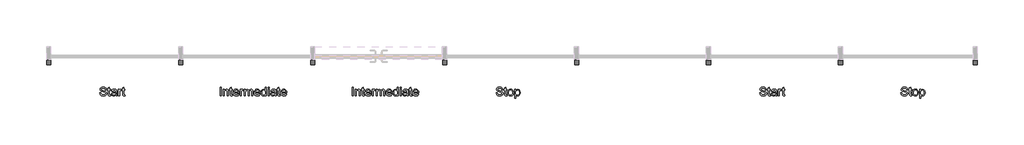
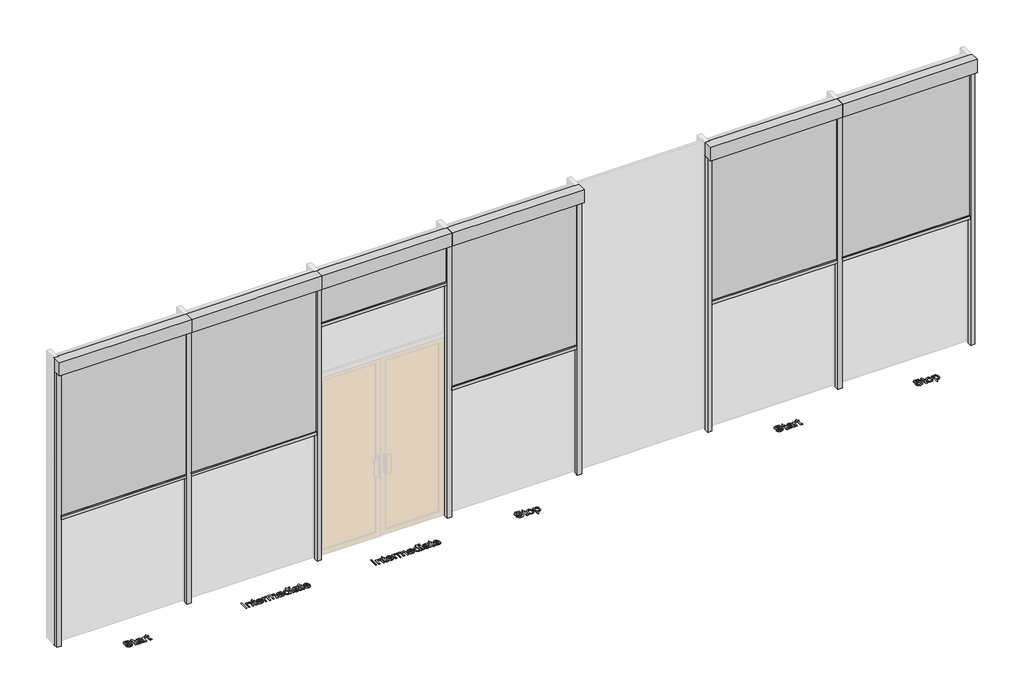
# One storey, part 4 of 4: 12 proxies.
"""IFC4 building model written with IfcOpenShell, lengths in millimetres."""

from ifc_helpers import new_model, si_unit, origin, origin_with_axes, place, context, project, spatial, polyline, outline, extrude, transform, mapped, element, save
from components import generic_models_1d95561a, generic_models_7d98fb68, generic_models_83925ee7, generic_models_0b1c9ff1, generic_models_05ed3316

model = new_model("IFC4")

# Units and contexts
model_context = context("Model", 3, world=origin())
ifc_project = project(units=[si_unit("LENGTHUNIT", "METRE", prefix="MILLI")], contexts=[model_context])

# Site, building, storey
site = spatial("IfcSite", under=ifc_project)
building = spatial("IfcBuilding", under=site)
storey = spatial("IfcBuildingStorey", under=building, Name="Fixscreen Mini CW50 Reynaers Overview Top", Elevation=0.0)

# Proxies
placement = place(None, origin())
generic_models_shape = generic_models_1d95561a(model_context)
element("IfcBuildingElementProxy", 1, Name="Renson_Fixscreen_Minimal_CW50_Reynaers_End : For Reynaers curtain wall - End element - Access downwards - Fabric close to the window", ObjectType="Renson_Fixscreen_Minimal_CW50_Reynaers_End : For Reynaers curtain wall - End element - Access downwards - Fabric close to the window", at=placement, inside=storey, context=model_context, shape_type="MappedRepresentation", body=[
    mapped(generic_models_shape, transform((-3913.1725901, 1109.7858744, 0.0), x_axis=(1.0, 0.0, 0.0), y_axis=(0.0, 1.0, 0.0), z_axis=(0.0, 0.0, 1.0))),
])
generic_models_2_shape = generic_models_7d98fb68(model_context)
element("IfcBuildingElementProxy", 2, Name="Renson_Fixscreen_Minimal_CW50_Reynaers_End : For Reynaers curtain wall - End element - Access downwards - Fabric close to the window", ObjectType="Renson_Fixscreen_Minimal_CW50_Reynaers_End : For Reynaers curtain wall - End element - Access downwards - Fabric close to the window", at=placement, inside=storey, context=model_context, shape_type="MappedRepresentation", body=[
    mapped(generic_models_2_shape, transform((616.3436748, 1107.5546799, 0.0), x_axis=(1.0, 0.0, 0.0), y_axis=(0.0, 1.0, 0.0), z_axis=(0.0, 0.0, 1.0))),
])
generic_models_3_shape = generic_models_83925ee7(model_context)
element("IfcBuildingElementProxy", 3, Name="Renson_Fixscreen_Minimal_CW50_Reynaers_Middle : For Reynaers curtain wall - Middle element - Access downwards - Fabric close to the window", ObjectType="Renson_Fixscreen_Minimal_CW50_Reynaers_Middle : For Reynaers curtain wall - Middle element - Access downwards - Fabric close to the window", at=placement, inside=storey, context=model_context, shape_type="MappedRepresentation", body=[
    mapped(generic_models_3_shape, transform((-6913.6796834, 1109.7391157, 0.0), x_axis=(1.0, 0.0, 0.0), y_axis=(0.0, 1.0, 0.0), z_axis=(0.0, 0.0, 1.0))),
])
generic_models_4_shape = generic_models_0b1c9ff1(model_context)
element("IfcBuildingElementProxy", 4, Name="Renson_Fixscreen_Minimal_CW50_Reynaers_Middle : For Reynaers curtain wall - Middle element - Access downwards - Fabric close to the window", ObjectType="Renson_Fixscreen_Minimal_CW50_Reynaers_Middle : For Reynaers curtain wall - Middle element - Access downwards - Fabric close to the window", at=placement, inside=storey, context=model_context, shape_type="MappedRepresentation", body=[
    mapped(generic_models_4_shape, transform((-5413.1725901, 1109.7391157, 0.0), x_axis=(1.0, 0.0, 0.0), y_axis=(0.0, 1.0, 0.0), z_axis=(0.0, 0.0, 1.0))),
])
generic_models_5_shape = generic_models_05ed3316(model_context)
element("IfcBuildingElementProxy", 5, Name="Renson_Fixscreen_Minimal_CW50_Reynaers_Start : For Reynaers curtain wall - Start element - Access downwards - Fabric close to the window", ObjectType="Renson_Fixscreen_Minimal_CW50_Reynaers_Start : For Reynaers curtain wall - Start element - Access downwards - Fabric close to the window", at=placement, inside=storey, context=model_context, shape_type="MappedRepresentation", body=[
    mapped(generic_models_5_shape, transform((-8413.6796834, 1109.7391157, 0.0), x_axis=(1.0, 0.0, 0.0), y_axis=(0.0, 1.0, 0.0), z_axis=(0.0, 0.0, 1.0))),
])
element("IfcBuildingElementProxy", 6, Name="Renson_Fixscreen_Minimal_CW50_Reynaers_Start : For Reynaers curtain wall - Start element - Access downwards - Fabric close to the window", ObjectType="Renson_Fixscreen_Minimal_CW50_Reynaers_Start : For Reynaers curtain wall - Start element - Access downwards - Fabric close to the window", at=placement, inside=storey, context=model_context, shape_type="MappedRepresentation", body=[
    mapped(generic_models_5_shape, transform((-913.6479386, 1107.6014385, 0.0), x_axis=(1.0, 0.0, 0.0), y_axis=(0.0, 1.0, 0.0), z_axis=(0.0, 0.0, 1.0))),
])
element("IfcBuildingElementProxy", 7, Name="100mm Arial", ObjectType="100mm Arial", at=placement, inside=storey, context=model_context, shape_type="SweptSolid", body=[
    extrude(outline(polyline([(-8828.8311252, 38.4810457), (-8816.2740864, 38.4810457), (-8812.2273845, 25.9117442), (-8802.3436216, 17.9654931), (-8787.2849852, 14.936598), (-8774.1638607, 17.2297291), (-8765.6903121, 23.532774), (-8762.9066717, 31.9572716), (-8764.9913363, 39.7931581), (-8773.5261986, 45.4953291), (-8791.8099338, 50.2900577), (-8811.4916205, 56.482738), (-8822.1724611, 65.8269407), (-8825.6918655, 78.310403), (-8821.3385952, 92.5229108), (-8808.6221409, 102.5538265), (-8790.007312, 105.9751291), (-8770.1416842, 102.394411), (-8756.8979324, 91.8729859), (-8751.9192628, 76.152162), (-8764.4763015, 76.152162), (-8766.7816954, 83.644692), (-8771.5886868, 89.0525573), (-8789.5168027, 93.4180903), (-8807.4939695, 89.1016082), (-8813.1348267, 78.678285), (-8809.1371757, 69.9717445), (-8788.6338859, 62.9574611), (-8766.4138134, 56.6544163), (-8754.2614448, 46.4763477), (-8750.3496329, 32.2761027), (-8754.850056, 17.2542546), (-8767.7995022, 6.2913711), (-8786.7944759, 2.3795592), (-8809.2230149, 6.5979394), (-8823.4109971, 19.302131), (-8828.8311252, 38.4810457)])), origin_with_axes(), (0.0, 0.0, 1.0), 5.0),
    extrude(outline(polyline([(-8706.3999972, 14.4215632), (-8704.8303674, 3.5813071), (-8714.223621, 2.3795592), (-8724.745046, 4.4642239), (-8729.9934958, 9.9334029), (-8731.5140748, 24.1826988), (-8731.5140748, 65.1647531), (-8740.9318538, 65.1647531), (-8740.9318538, 77.7217918), (-8731.5140748, 77.7217918), (-8731.5140748, 95.6499077), (-8718.957036, 103.0320731), (-8718.957036, 77.7217918), (-8706.3999972, 77.7217918), (-8706.3999972, 65.1647531), (-8718.957036, 65.1647531), (-8718.957036, 24.5505808), (-8718.2948484, 18.0758577), (-8716.1488701, 15.7827266), (-8711.8691762, 14.936598), (-8706.3999972, 14.4215632)])), origin_with_axes(), (0.0, 0.0, 1.0), 5.0),
    extrude(outline(polyline([(-8646.7540631, 13.3669682), (-8658.9309571, 4.8566313), (-8672.3831754, 2.3795592), (-8682.8770093, 3.8694813), (-8690.6178596, 8.3392476), (-8695.3911285, 15.1266704), (-8696.9822181, 23.5695622), (-8694.5787224, 33.502376), (-8688.2634149, 40.7128631), (-8679.4710352, 44.8331415), (-8668.6062536, 46.7216024), (-8646.8276395, 51.0380845), (-8646.7540631, 53.8339876), (-8650.2121538, 63.1046139), (-8664.0935678, 66.7343829), (-8676.7977593, 64.3186245), (-8682.8555495, 55.746974), (-8695.4125883, 57.3166039), (-8689.9801975, 69.579337), (-8679.0418395, 76.7652987), (-8662.474887, 79.2914217), (-8647.2568351, 77.0596043), (-8638.6606592, 71.4555352), (-8634.810161, 62.9329356), (-8634.1970243, 51.9455267), (-8634.1970243, 36.3228047), (-8633.5593622, 14.5074023), (-8631.0577646, 3.9491891), (-8643.6148034, 3.9491891), (-8646.7540631, 13.3669682)]), holes=[polyline([(-8646.7540631, 38.4810457), (-8667.0120983, 34.6305475), (-8677.8155662, 32.5949338), (-8682.7083967, 29.2839958), (-8684.4251794, 24.4524789), (-8680.6850458, 17.6589248), (-8669.7098996, 14.936598), (-8657.005708, 17.9409676), (-8648.8142022, 25.2127684), (-8646.8276395, 34.9248531), (-8646.7540631, 38.4810457)])]), origin_with_axes(), (0.0, 0.0, 1.0), 5.0),
    extrude(outline(polyline([(-8616.931096, 3.9491891), (-8616.931096, 77.7217918), (-8605.9436871, 77.7217918), (-8605.9436871, 66.8079593), (-8598.1445888, 76.8634005), (-8590.2964395, 79.2914217), (-8577.6903498, 75.416398), (-8581.8842046, 64.159209), (-8590.7133725, 66.7343829), (-8597.813495, 64.2573108), (-8602.3384435, 57.3901802), (-8604.3740572, 42.7239514), (-8604.3740572, 3.9491891), (-8616.931096, 3.9491891)])), origin_with_axes(), (0.0, 0.0, 1.0), 5.0),
    extrude(outline(polyline([(-8543.1584932, 14.4215632), (-8541.5888634, 3.5813071), (-8550.982117, 2.3795592), (-8561.503542, 4.4642239), (-8566.7519918, 9.9334029), (-8568.2725708, 24.1826988), (-8568.2725708, 65.1647531), (-8577.6903498, 65.1647531), (-8577.6903498, 77.7217918), (-8568.2725708, 77.7217918), (-8568.2725708, 95.6499077), (-8555.715532, 103.0320731), (-8555.715532, 77.7217918), (-8543.1584932, 77.7217918), (-8543.1584932, 65.1647531), (-8555.715532, 65.1647531), (-8555.715532, 24.5505808), (-8555.0533444, 18.0758577), (-8552.9073661, 15.7827266), (-8548.6276722, 14.936598), (-8543.1584932, 14.4215632)])), origin_with_axes(), (0.0, 0.0, 1.0), 5.0),
])
element("IfcBuildingElementProxy", 8, Name="100mm Arial", ObjectType="100mm Arial", at=placement, inside=storey, context=model_context, shape_type="SweptSolid", body=[
    extrude(outline(polyline([(-5961.9211574, 3.9491891), (-5961.9211574, 104.4054992), (-5949.3641186, 104.4054992), (-5949.3641186, 3.9491891), (-5961.9211574, 3.9491891)])), origin_with_axes(), (0.0, 0.0, 1.0), 5.0),
    extrude(outline(polyline([(-5925.8196709, 3.9491891), (-5925.8196709, 77.7217918), (-5913.2626321, 77.7217918), (-5913.2626321, 67.421096), (-5903.6609121, 76.3238403), (-5890.5520503, 79.2914217), (-5878.6939873, 76.9001887), (-5870.6005834, 70.6216693), (-5866.8359243, 61.3878313), (-5866.1737367, 49.2477254), (-5866.1737367, 3.9491891), (-5878.7307755, 3.9491891), (-5878.7307755, 47.5554682), (-5880.177778, 58.6655045), (-5885.2913378, 64.5393537), (-5893.9120392, 66.7343829), (-5907.5359357, 61.8047642), (-5911.830958, 54.6617221), (-5913.2626321, 43.0918334), (-5913.2626321, 3.9491891), (-5925.8196709, 3.9491891)])), origin_with_axes(), (0.0, 0.0, 1.0), 5.0),
    extrude(outline(polyline([(-5822.2241011, 14.4215632), (-5820.6544712, 3.5813071), (-5830.0477248, 2.3795592), (-5840.5691499, 4.4642239), (-5845.8175997, 9.9334029), (-5847.3381786, 24.1826988), (-5847.3381786, 65.1647531), (-5856.7559577, 65.1647531), (-5856.7559577, 77.7217918), (-5847.3381786, 77.7217918), (-5847.3381786, 95.6499077), (-5834.7811398, 103.0320731), (-5834.7811398, 77.7217918), (-5822.2241011, 77.7217918), (-5822.2241011, 65.1647531), (-5834.7811398, 65.1647531), (-5834.7811398, 24.5505808), (-5834.1189522, 18.0758577), (-5831.9729739, 15.7827266), (-5827.69328, 14.936598), (-5822.2241011, 14.4215632)])), origin_with_axes(), (0.0, 0.0, 1.0), 5.0),
    extrude(outline(polyline([(-5758.0164302, 25.9240069), (-5745.7046461, 24.3543771), (-5750.1406898, 15.0776194), (-5757.2193525, 8.1430438), (-5766.7812187, 3.8204304), (-5778.6668728, 2.3795592), (-5793.4005467, 4.8658284), (-5804.7374435, 12.3246358), (-5811.9663248, 24.2716036), (-5814.3759518, 40.2223538), (-5811.9417993, 56.7095986), (-5804.6393417, 69.0397768), (-5793.455729, 76.7285105), (-5779.3781113, 79.2914217), (-5765.7388864, 76.7346418), (-5754.8403823, 69.0643022), (-5747.6942745, 56.7586495), (-5745.3122386, 40.2959302), (-5745.385815, 36.9114159), (-5801.8189131, 36.9114159), (-5799.6453436, 27.5120309), (-5794.5961632, 20.6019807), (-5787.309034, 16.3529437), (-5778.4216182, 14.936598), (-5766.1098341, 17.5608229), (-5758.0164302, 25.9240069)]), holes=[polyline([(-5801.8189131, 49.4684546), (-5757.8692774, 49.4684546), (-5762.896998, 60.848271), (-5770.2178497, 65.2628549), (-5779.4271623, 66.7343829), (-5794.8904688, 62.0377561), (-5799.7557082, 56.5471173), (-5801.8189131, 49.4684546)])]), origin_with_axes(), (0.0, 0.0, 1.0), 5.0),
    extrude(outline(polyline([(-5732.7551998, 3.9491891), (-5732.7551998, 77.7217918), (-5721.7677909, 77.7217918), (-5721.7677909, 66.8079593), (-5713.9686926, 76.8634005), (-5706.1205434, 79.2914217), (-5693.5144537, 75.416398), (-5697.7083084, 64.159209), (-5706.5374763, 66.7343829), (-5713.6375988, 64.2573108), (-5718.1625474, 57.3901802), (-5720.1981611, 42.7239514), (-5720.1981611, 3.9491891), (-5732.7551998, 3.9491891)])), origin_with_axes(), (0.0, 0.0, 1.0), 5.0),
    extrude(outline(polyline([(-5685.6663044, 3.9491891), (-5685.6663044, 77.7217918), (-5673.1092657, 77.7217918), (-5673.1092657, 65.581686), (-5664.4763015, 75.5267626), (-5652.1890429, 79.2914217), (-5639.6074786, 75.4531862), (-5632.6912971, 64.6987692), (-5622.8933733, 75.6432586), (-5610.5202756, 79.2914217), (-5601.0810367, 77.7739085), (-5594.1004758, 73.2213688), (-5589.7870594, 65.5111753), (-5588.349254, 54.5207007), (-5588.349254, 3.9491891), (-5600.9062928, 3.9491891), (-5600.9062928, 49.1250981), (-5602.0712524, 59.609735), (-5606.2896326, 64.7723456), (-5613.4633315, 66.7343829), (-5625.8119038, 61.7066623), (-5629.4999208, 55.1644942), (-5630.7292598, 45.5934309), (-5630.7292598, 3.9491891), (-5643.2862986, 3.9491891), (-5643.2862986, 50.5230497), (-5646.1925664, 62.687681), (-5655.72071, 66.7343829), (-5665.0158618, 64.0365816), (-5671.1962793, 56.1393815), (-5673.1092657, 41.1543215), (-5673.1092657, 3.9491891), (-5685.6663044, 3.9491891)])), origin_with_axes(), (0.0, 0.0, 1.0), 5.0),
    extrude(outline(polyline([(-5517.8630637, 25.9240069), (-5505.5512796, 24.3543771), (-5509.9873233, 15.0776194), (-5517.0659861, 8.1430438), (-5526.6278522, 3.8204304), (-5538.5135064, 2.3795592), (-5553.2471803, 4.8658284), (-5564.5840771, 12.3246358), (-5571.8129583, 24.2716036), (-5574.2225854, 40.2223538), (-5571.7884328, 56.7095986), (-5564.4859752, 69.0397768), (-5553.3023626, 76.7285105), (-5539.2247449, 79.2914217), (-5525.5855199, 76.7346418), (-5514.6870158, 69.0643022), (-5507.5409081, 56.7586495), (-5505.1588721, 40.2959302), (-5505.2324485, 36.9114159), (-5561.6655466, 36.9114159), (-5559.4919771, 27.5120309), (-5554.4427968, 20.6019807), (-5547.1556676, 16.3529437), (-5538.2682517, 14.936598), (-5525.9564676, 17.5608229), (-5517.8630637, 25.9240069)]), holes=[polyline([(-5561.6655466, 49.4684546), (-5517.7159109, 49.4684546), (-5522.7436315, 60.848271), (-5530.0644832, 65.2628549), (-5539.2737958, 66.7343829), (-5554.7371024, 62.0377561), (-5559.6023417, 56.5471173), (-5561.6655466, 49.4684546)])]), origin_with_axes(), (0.0, 0.0, 1.0), 5.0),
    extrude(outline(polyline([(-5447.0825678, 3.9491891), (-5447.0825678, 15.7949893), (-5455.3905696, 5.7334168), (-5466.8746192, 2.3795592), (-5482.4237648, 7.2356016), (-5493.4111738, 20.7859217), (-5497.3107229, 40.7619141), (-5493.7177421, 60.7501691), (-5482.9510624, 74.5089558), (-5466.9236701, 79.2914217), (-5455.34765, 75.8701191), (-5447.0825678, 66.9796376), (-5447.0825678, 104.4054992), (-5434.5255291, 104.4054992), (-5434.5255291, 3.9491891), (-5447.0825678, 3.9491891)]), holes=[polyline([(-5484.7536841, 40.810965), (-5483.3373385, 29.4526084), (-5479.0883014, 21.3745329), (-5472.9140153, 16.5460817), (-5465.7219223, 14.936598), (-5458.5328949, 16.4725053), (-5452.5149586, 21.0802273), (-5448.4406655, 28.8456031), (-5447.0825678, 39.8544718), (-5448.465191, 51.8903444), (-5452.6130605, 60.2351343), (-5458.784281, 65.1095708), (-5466.2369571, 66.7343829), (-5473.5026265, 65.1739501), (-5479.4561834, 60.4926517), (-5483.429309, 52.4513645), (-5484.7536841, 40.810965)])]), origin_with_axes(), (0.0, 0.0, 1.0), 5.0),
    extrude(outline(polyline([(-5415.6899709, 91.8484605), (-5415.6899709, 104.4054992), (-5403.1329321, 104.4054992), (-5403.1329321, 91.8484605), (-5415.6899709, 91.8484605)])), origin_with_axes(), (0.0, 0.0, 1.0), 5.0),
    extrude(outline(polyline([(-5415.6899709, 3.9491891), (-5415.6899709, 77.7217918), (-5403.1329321, 77.7217918), (-5403.1329321, 3.9491891), (-5415.6899709, 3.9491891)])), origin_with_axes(), (0.0, 0.0, 1.0), 5.0),
    extrude(outline(polyline([(-5337.2084786, 13.3669682), (-5349.3853727, 4.8566313), (-5362.8375909, 2.3795592), (-5373.3314249, 3.8694813), (-5381.0722752, 8.3392476), (-5385.8455441, 15.1266704), (-5387.4366337, 23.5695622), (-5385.033138, 33.502376), (-5378.7178304, 40.7128631), (-5369.9254507, 44.8331415), (-5359.0606691, 46.7216024), (-5337.282055, 51.0380845), (-5337.2084786, 53.8339876), (-5340.6665694, 63.1046139), (-5354.5479833, 66.7343829), (-5367.2521749, 64.3186245), (-5373.3099651, 55.746974), (-5385.8670038, 57.3166039), (-5380.434613, 69.579337), (-5369.4962551, 76.7652987), (-5352.9293025, 79.2914217), (-5337.7112507, 77.0596043), (-5329.1150747, 71.4555352), (-5325.2645765, 62.9329356), (-5324.6514398, 51.9455267), (-5324.6514398, 36.3228047), (-5324.0137777, 14.5074023), (-5321.5121802, 3.9491891), (-5334.0692189, 3.9491891), (-5337.2084786, 13.3669682)]), holes=[polyline([(-5337.2084786, 38.4810457), (-5357.4665138, 34.6305475), (-5368.2699817, 32.5949338), (-5373.1628123, 29.2839958), (-5374.8795949, 24.4524789), (-5371.1394613, 17.6589248), (-5360.1643151, 14.936598), (-5347.4601235, 17.9409676), (-5339.2686178, 25.2127684), (-5337.282055, 34.9248531), (-5337.2084786, 38.4810457)])]), origin_with_axes(), (0.0, 0.0, 1.0), 5.0),
    extrude(outline(polyline([(-5280.7018042, 14.4215632), (-5279.1321743, 3.5813071), (-5288.5254279, 2.3795592), (-5299.046853, 4.4642239), (-5304.2953028, 9.9334029), (-5305.8158817, 24.1826988), (-5305.8158817, 65.1647531), (-5315.2336608, 65.1647531), (-5315.2336608, 77.7217918), (-5305.8158817, 77.7217918), (-5305.8158817, 95.6499077), (-5293.2588429, 103.0320731), (-5293.2588429, 77.7217918), (-5280.7018042, 77.7217918), (-5280.7018042, 65.1647531), (-5293.2588429, 65.1647531), (-5293.2588429, 24.5505808), (-5292.5966553, 18.0758577), (-5290.450677, 15.7827266), (-5286.1709831, 14.936598), (-5280.7018042, 14.4215632)])), origin_with_axes(), (0.0, 0.0, 1.0), 5.0),
    extrude(outline(polyline([(-5216.4941333, 25.9240069), (-5204.1823492, 24.3543771), (-5208.6183929, 15.0776194), (-5215.6970556, 8.1430438), (-5225.2589218, 3.8204304), (-5237.1445759, 2.3795592), (-5251.8782498, 4.8658284), (-5263.2151466, 12.3246358), (-5270.4440279, 24.2716036), (-5272.8536549, 40.2223538), (-5270.4195024, 56.7095986), (-5263.1170448, 69.0397768), (-5251.9334321, 76.7285105), (-5237.8558144, 79.2914217), (-5224.2165895, 76.7346418), (-5213.3180854, 69.0643022), (-5206.1719776, 56.7586495), (-5203.7899417, 40.2959302), (-5203.8635181, 36.9114159), (-5260.2966162, 36.9114159), (-5258.1230467, 27.5120309), (-5253.0738663, 20.6019807), (-5245.7867371, 16.3529437), (-5236.8993213, 14.936598), (-5224.5875372, 17.5608229), (-5216.4941333, 25.9240069)]), holes=[polyline([(-5260.2966162, 49.4684546), (-5216.3469805, 49.4684546), (-5221.3747011, 60.848271), (-5228.6955528, 65.2628549), (-5237.9048654, 66.7343829), (-5253.3681719, 62.0377561), (-5258.2334113, 56.5471173), (-5260.2966162, 49.4684546)])]), origin_with_axes(), (0.0, 0.0, 1.0), 5.0),
])
element("IfcBuildingElementProxy", 9, Name="100mm Arial", ObjectType="100mm Arial", at=placement, inside=storey, context=model_context, shape_type="SweptSolid", body=[
    extrude(outline(polyline([(-4324.1222357, 38.4810457), (-4311.5651969, 38.4810457), (-4307.518495, 25.9117442), (-4297.634732, 17.9654931), (-4282.5760957, 14.936598), (-4269.4549712, 17.2297291), (-4260.9814226, 23.532774), (-4258.1977821, 31.9572716), (-4260.2824468, 39.7931581), (-4268.8173091, 45.4953291), (-4287.1010442, 50.2900577), (-4306.782731, 56.482738), (-4317.4635716, 65.8269407), (-4320.982976, 78.310403), (-4316.6297057, 92.5229108), (-4303.9132514, 102.5538265), (-4285.2984224, 105.9751291), (-4265.4327947, 102.394411), (-4252.1890429, 91.8729859), (-4247.2103732, 76.152162), (-4259.767412, 76.152162), (-4262.0728058, 83.644692), (-4266.8797972, 89.0525573), (-4284.8079131, 93.4180903), (-4302.78508, 89.1016082), (-4308.4259372, 78.678285), (-4304.4282862, 69.9717445), (-4283.9249963, 62.9574611), (-4261.7049238, 56.6544163), (-4249.5525552, 46.4763477), (-4245.6407434, 32.2761027), (-4250.1411664, 17.2542546), (-4263.0906127, 6.2913711), (-4282.0855864, 2.3795592), (-4304.5141253, 6.5979394), (-4318.7021076, 19.302131), (-4324.1222357, 38.4810457)])), origin_with_axes(), (0.0, 0.0, 1.0), 5.0),
    extrude(outline(polyline([(-4201.6911077, 14.4215632), (-4200.1214778, 3.5813071), (-4209.5147314, 2.3795592), (-4220.0361565, 4.4642239), (-4225.2846063, 9.9334029), (-4226.8051852, 24.1826988), (-4226.8051852, 65.1647531), (-4236.2229643, 65.1647531), (-4236.2229643, 77.7217918), (-4226.8051852, 77.7217918), (-4226.8051852, 95.6499077), (-4214.2481464, 103.0320731), (-4214.2481464, 77.7217918), (-4201.6911077, 77.7217918), (-4201.6911077, 65.1647531), (-4214.2481464, 65.1647531), (-4214.2481464, 24.5505808), (-4213.5859589, 18.0758577), (-4211.4399805, 15.7827266), (-4207.1602867, 14.936598), (-4201.6911077, 14.4215632)])), origin_with_axes(), (0.0, 0.0, 1.0), 5.0),
    extrude(outline(polyline([(-4192.2733286, 40.8354905), (-4189.5571332, 58.6225849), (-4181.408547, 71.1244414), (-4171.3408431, 77.2496766), (-4159.2865764, 79.2914217), (-4146.0949412, 76.8051525), (-4135.5581877, 69.3463451), (-4128.6512032, 57.5036105), (-4126.3488751, 41.8655601), (-4130.4201025, 19.5228602), (-4142.2781655, 6.8799823), (-4159.2865764, 2.3795592), (-4172.6376271, 4.8566313), (-4183.1621179, 12.2878476), (-4189.9955259, 24.3789025), (-4192.2733286, 40.8354905)]), holes=[polyline([(-4179.7162898, 40.8600159), (-4178.263156, 29.495528), (-4173.9037543, 21.3990584), (-4167.3431921, 16.5522131), (-4159.2865764, 14.936598), (-4151.2667489, 16.5614102), (-4144.7184494, 21.4358466), (-4140.3590477, 29.6396151), (-4138.9059138, 41.2524234), (-4140.3682448, 52.2858176), (-4144.7552376, 60.2719225), (-4151.3127341, 65.1187678), (-4159.2865764, 66.7343829), (-4167.3431921, 65.1248992), (-4173.9037543, 60.296448), (-4178.263156, 52.2183725), (-4179.7162898, 40.8600159)])]), origin_with_axes(), (0.0, 0.0, 1.0), 5.0),
    extrude(outline(polyline([(-4112.2222065, -24.3041481), (-4112.2222065, 77.7217918), (-4099.6651677, 77.7217918), (-4099.6651677, 65.4100077), (-4090.9831526, 75.8210682), (-4079.2599797, 79.2914217), (-4063.342952, 74.4353794), (-4052.9441543, 60.7501691), (-4049.4370126, 41.3995762), (-4053.3978754, 21.0557019), (-4064.9003191, 7.1988134), (-4080.7805586, 2.3795592), (-4091.7066539, 5.6046581), (-4099.6651677, 13.7593756), (-4099.6651677, -24.3041481), (-4112.2222065, -24.3041481)]), holes=[polyline([(-4099.6651677, 40.2468793), (-4098.30707, 28.9896902), (-4094.2327769, 21.1170155), (-4088.2209719, 16.4817024), (-4081.0503387, 14.936598), (-4073.7632095, 16.5368847), (-4067.5981204, 21.3377447), (-4063.3950686, 29.4985936), (-4061.9940514, 41.178847), (-4063.3613461, 52.3747224), (-4067.4632304, 60.3577617), (-4073.4658383, 65.1402276), (-4080.5353039, 66.7343829), (-4087.6323608, 65.0390601), (-4093.8648949, 59.9530915), (-4098.2150995, 51.6358927), (-4099.6651677, 40.2468793)])]), origin_with_axes(), (0.0, 0.0, 1.0), 5.0),
])
element("IfcBuildingElementProxy", 10, Name="100mm Arial", ObjectType="100mm Arial", at=placement, inside=storey, context=model_context, shape_type="SweptSolid", body=[
    extrude(outline(polyline([(-1328.8311252, 38.4810457), (-1316.2740864, 38.4810457), (-1312.2273845, 25.9117442), (-1302.3436216, 17.9654931), (-1287.2849852, 14.936598), (-1274.1638607, 17.2297291), (-1265.6903121, 23.532774), (-1262.9066717, 31.9572716), (-1264.9913363, 39.7931581), (-1273.5261986, 45.4953291), (-1291.8099338, 50.2900577), (-1311.4916205, 56.482738), (-1322.1724611, 65.8269407), (-1325.6918655, 78.310403), (-1321.3385952, 92.5229108), (-1308.6221409, 102.5538265), (-1290.007312, 105.9751291), (-1270.1416842, 102.394411), (-1256.8979324, 91.8729859), (-1251.9192628, 76.152162), (-1264.4763015, 76.152162), (-1266.7816954, 83.644692), (-1271.5886868, 89.0525573), (-1289.5168027, 93.4180903), (-1307.4939695, 89.1016082), (-1313.1348267, 78.678285), (-1309.1371757, 69.9717445), (-1288.6338859, 62.9574611), (-1266.4138134, 56.6544163), (-1254.2614448, 46.4763477), (-1250.3496329, 32.2761027), (-1254.850056, 17.2542546), (-1267.7995022, 6.2913711), (-1286.7944759, 2.3795592), (-1309.2230149, 6.5979394), (-1323.4109971, 19.302131), (-1328.8311252, 38.4810457)])), origin_with_axes(), (0.0, 0.0, 1.0), 5.0),
    extrude(outline(polyline([(-1206.3999972, 14.4215632), (-1204.8303674, 3.5813071), (-1214.223621, 2.3795592), (-1224.745046, 4.4642239), (-1229.9934958, 9.9334029), (-1231.5140748, 24.1826988), (-1231.5140748, 65.1647531), (-1240.9318538, 65.1647531), (-1240.9318538, 77.7217918), (-1231.5140748, 77.7217918), (-1231.5140748, 95.6499077), (-1218.957036, 103.0320731), (-1218.957036, 77.7217918), (-1206.3999972, 77.7217918), (-1206.3999972, 65.1647531), (-1218.957036, 65.1647531), (-1218.957036, 24.5505808), (-1218.2948484, 18.0758577), (-1216.1488701, 15.7827266), (-1211.8691762, 14.936598), (-1206.3999972, 14.4215632)])), origin_with_axes(), (0.0, 0.0, 1.0), 5.0),
    extrude(outline(polyline([(-1146.7540631, 13.3669682), (-1158.9309571, 4.8566313), (-1172.3831754, 2.3795592), (-1182.8770093, 3.8694813), (-1190.6178596, 8.3392476), (-1195.3911285, 15.1266704), (-1196.9822181, 23.5695622), (-1194.5787224, 33.502376), (-1188.2634149, 40.7128631), (-1179.4710352, 44.8331415), (-1168.6062536, 46.7216024), (-1146.8276395, 51.0380845), (-1146.7540631, 53.8339876), (-1150.2121538, 63.1046139), (-1164.0935678, 66.7343829), (-1176.7977593, 64.3186245), (-1182.8555495, 55.746974), (-1195.4125883, 57.3166039), (-1189.9801975, 69.579337), (-1179.0418395, 76.7652987), (-1162.474887, 79.2914217), (-1147.2568351, 77.0596043), (-1138.6606592, 71.4555352), (-1134.810161, 62.9329356), (-1134.1970243, 51.9455267), (-1134.1970243, 36.3228047), (-1133.5593622, 14.5074023), (-1131.0577646, 3.9491891), (-1143.6148034, 3.9491891), (-1146.7540631, 13.3669682)]), holes=[polyline([(-1146.7540631, 38.4810457), (-1167.0120983, 34.6305475), (-1177.8155662, 32.5949338), (-1182.7083967, 29.2839958), (-1184.4251794, 24.4524789), (-1180.6850458, 17.6589248), (-1169.7098996, 14.936598), (-1157.005708, 17.9409676), (-1148.8142022, 25.2127684), (-1146.8276395, 34.9248531), (-1146.7540631, 38.4810457)])]), origin_with_axes(), (0.0, 0.0, 1.0), 5.0),
    extrude(outline(polyline([(-1116.931096, 3.9491891), (-1116.931096, 77.7217918), (-1105.9436871, 77.7217918), (-1105.9436871, 66.8079593), (-1098.1445888, 76.8634005), (-1090.2964395, 79.2914217), (-1077.6903498, 75.416398), (-1081.8842046, 64.159209), (-1090.7133725, 66.7343829), (-1097.813495, 64.2573108), (-1102.3384435, 57.3901802), (-1104.3740572, 42.7239514), (-1104.3740572, 3.9491891), (-1116.931096, 3.9491891)])), origin_with_axes(), (0.0, 0.0, 1.0), 5.0),
    extrude(outline(polyline([(-1043.1584932, 14.4215632), (-1041.5888634, 3.5813071), (-1050.982117, 2.3795592), (-1061.503542, 4.4642239), (-1066.7519918, 9.9334029), (-1068.2725708, 24.1826988), (-1068.2725708, 65.1647531), (-1077.6903498, 65.1647531), (-1077.6903498, 77.7217918), (-1068.2725708, 77.7217918), (-1068.2725708, 95.6499077), (-1055.715532, 103.0320731), (-1055.715532, 77.7217918), (-1043.1584932, 77.7217918), (-1043.1584932, 65.1647531), (-1055.715532, 65.1647531), (-1055.715532, 24.5505808), (-1055.0533444, 18.0758577), (-1052.9073661, 15.7827266), (-1048.6276722, 14.936598), (-1043.1584932, 14.4215632)])), origin_with_axes(), (0.0, 0.0, 1.0), 5.0),
])
element("IfcBuildingElementProxy", 11, Name="100mm Arial", ObjectType="100mm Arial", at=placement, inside=storey, context=model_context, shape_type="SweptSolid", body=[
    extrude(outline(polyline([(275.8777643, 38.4810457), (288.4348031, 38.4810457), (292.481505, 25.9117442), (302.365268, 17.9654931), (317.4239043, 14.936598), (330.5450288, 17.2297291), (339.0185774, 23.532774), (341.8022179, 31.9572716), (339.7175532, 39.7931581), (331.1826909, 45.4953291), (312.8989558, 50.2900577), (293.217269, 56.482738), (282.5364284, 65.8269407), (279.017024, 78.310403), (283.3702943, 92.5229108), (296.0867486, 102.5538265), (314.7015776, 105.9751291), (334.5672053, 102.394411), (347.8109571, 91.8729859), (352.7896268, 76.152162), (340.232588, 76.152162), (337.9271942, 83.644692), (333.1202028, 89.0525573), (315.1920869, 93.4180903), (297.21492, 89.1016082), (291.5740628, 78.678285), (295.5717138, 69.9717445), (316.0750037, 62.9574611), (338.2950762, 56.6544163), (350.4474448, 46.4763477), (354.3592566, 32.2761027), (349.8588336, 17.2542546), (336.9093873, 6.2913711), (317.9144136, 2.3795592), (295.4858747, 6.5979394), (281.2978924, 19.302131), (275.8777643, 38.4810457)])), origin_with_axes(), (0.0, 0.0, 1.0), 5.0),
    extrude(outline(polyline([(398.3088923, 14.4215632), (399.8785222, 3.5813071), (390.4852686, 2.3795592), (379.9638435, 4.4642239), (374.7153937, 9.9334029), (373.1948148, 24.1826988), (373.1948148, 65.1647531), (363.7770357, 65.1647531), (363.7770357, 77.7217918), (373.1948148, 77.7217918), (373.1948148, 95.6499077), (385.7518536, 103.0320731), (385.7518536, 77.7217918), (398.3088923, 77.7217918), (398.3088923, 65.1647531), (385.7518536, 65.1647531), (385.7518536, 24.5505808), (386.4140411, 18.0758577), (388.5600195, 15.7827266), (392.8397133, 14.936598), (398.3088923, 14.4215632)])), origin_with_axes(), (0.0, 0.0, 1.0), 5.0),
    extrude(outline(polyline([(407.7266714, 40.8354905), (410.4428668, 58.6225849), (418.591453, 71.1244414), (428.6591569, 77.2496766), (440.7134236, 79.2914217), (453.9050588, 76.8051525), (464.4418123, 69.3463451), (471.3487968, 57.5036105), (473.6511249, 41.8655601), (469.5798975, 19.5228602), (457.7218345, 6.8799823), (440.7134236, 2.3795592), (427.3623729, 4.8566313), (416.8378821, 12.2878476), (410.0044741, 24.3789025), (407.7266714, 40.8354905)]), holes=[polyline([(420.2837102, 40.8600159), (421.736844, 29.495528), (426.0962457, 21.3990584), (432.6568079, 16.5522131), (440.7134236, 14.936598), (448.7332511, 16.5614102), (455.2815506, 21.4358466), (459.6409523, 29.6396151), (461.0940862, 41.2524234), (459.6317552, 52.2858176), (455.2447624, 60.2719225), (448.6872659, 65.1187678), (440.7134236, 66.7343829), (432.6568079, 65.1248992), (426.0962457, 60.296448), (421.736844, 52.2183725), (420.2837102, 40.8600159)])]), origin_with_axes(), (0.0, 0.0, 1.0), 5.0),
    extrude(outline(polyline([(487.7777935, -24.3041481), (487.7777935, 77.7217918), (500.3348323, 77.7217918), (500.3348323, 65.4100077), (509.0168474, 75.8210682), (520.7400203, 79.2914217), (536.657048, 74.4353794), (547.0558457, 60.7501691), (550.5629874, 41.3995762), (546.6021246, 21.0557019), (535.0996809, 7.1988134), (519.2194414, 2.3795592), (508.2933461, 5.6046581), (500.3348323, 13.7593756), (500.3348323, -24.3041481), (487.7777935, -24.3041481)]), holes=[polyline([(500.3348323, 40.2468793), (501.69293, 28.9896902), (505.7672231, 21.1170155), (511.7790281, 16.4817024), (518.9496613, 14.936598), (526.2367905, 16.5368847), (532.4018796, 21.3377447), (536.6049314, 29.4985936), (538.0059486, 41.178847), (536.6386539, 52.3747224), (532.5367696, 60.3577617), (526.5341617, 65.1402276), (519.4646961, 66.7343829), (512.3676392, 65.0390601), (506.1351051, 59.9530915), (501.7849005, 51.6358927), (500.3348323, 40.2468793)])]), origin_with_axes(), (0.0, 0.0, 1.0), 5.0),
])
element("IfcBuildingElementProxy", 12, Name="100mm Arial", ObjectType="100mm Arial", at=placement, inside=storey, context=model_context, shape_type="SweptSolid", body=[
    extrude(outline(polyline([(-7461.9211574, 3.9491891), (-7461.9211574, 104.4054992), (-7449.3641186, 104.4054992), (-7449.3641186, 3.9491891), (-7461.9211574, 3.9491891)])), origin_with_axes(), (0.0, 0.0, 1.0), 5.0),
    extrude(outline(polyline([(-7425.8196709, 3.9491891), (-7425.8196709, 77.7217918), (-7413.2626321, 77.7217918), (-7413.2626321, 67.421096), (-7403.6609121, 76.3238403), (-7390.5520503, 79.2914217), (-7378.6939873, 76.9001887), (-7370.6005834, 70.6216693), (-7366.8359243, 61.3878313), (-7366.1737367, 49.2477254), (-7366.1737367, 3.9491891), (-7378.7307755, 3.9491891), (-7378.7307755, 47.5554682), (-7380.177778, 58.6655045), (-7385.2913378, 64.5393537), (-7393.9120392, 66.7343829), (-7407.5359357, 61.8047642), (-7411.830958, 54.6617221), (-7413.2626321, 43.0918334), (-7413.2626321, 3.9491891), (-7425.8196709, 3.9491891)])), origin_with_axes(), (0.0, 0.0, 1.0), 5.0),
    extrude(outline(polyline([(-7322.2241011, 14.4215632), (-7320.6544712, 3.5813071), (-7330.0477248, 2.3795592), (-7340.5691499, 4.4642239), (-7345.8175997, 9.9334029), (-7347.3381786, 24.1826988), (-7347.3381786, 65.1647531), (-7356.7559577, 65.1647531), (-7356.7559577, 77.7217918), (-7347.3381786, 77.7217918), (-7347.3381786, 95.6499077), (-7334.7811398, 103.0320731), (-7334.7811398, 77.7217918), (-7322.2241011, 77.7217918), (-7322.2241011, 65.1647531), (-7334.7811398, 65.1647531), (-7334.7811398, 24.5505808), (-7334.1189522, 18.0758577), (-7331.9729739, 15.7827266), (-7327.69328, 14.936598), (-7322.2241011, 14.4215632)])), origin_with_axes(), (0.0, 0.0, 1.0), 5.0),
    extrude(outline(polyline([(-7258.0164302, 25.9240069), (-7245.7046461, 24.3543771), (-7250.1406898, 15.0776194), (-7257.2193525, 8.1430438), (-7266.7812187, 3.8204304), (-7278.6668728, 2.3795592), (-7293.4005467, 4.8658284), (-7304.7374435, 12.3246358), (-7311.9663248, 24.2716036), (-7314.3759518, 40.2223538), (-7311.9417993, 56.7095986), (-7304.6393417, 69.0397768), (-7293.455729, 76.7285105), (-7279.3781113, 79.2914217), (-7265.7388864, 76.7346418), (-7254.8403823, 69.0643022), (-7247.6942745, 56.7586495), (-7245.3122386, 40.2959302), (-7245.385815, 36.9114159), (-7301.8189131, 36.9114159), (-7299.6453436, 27.5120309), (-7294.5961632, 20.6019807), (-7287.309034, 16.3529437), (-7278.4216182, 14.936598), (-7266.1098341, 17.5608229), (-7258.0164302, 25.9240069)]), holes=[polyline([(-7301.8189131, 49.4684546), (-7257.8692774, 49.4684546), (-7262.896998, 60.848271), (-7270.2178497, 65.2628549), (-7279.4271623, 66.7343829), (-7294.8904688, 62.0377561), (-7299.7557082, 56.5471173), (-7301.8189131, 49.4684546)])]), origin_with_axes(), (0.0, 0.0, 1.0), 5.0),
    extrude(outline(polyline([(-7232.7551998, 3.9491891), (-7232.7551998, 77.7217918), (-7221.7677909, 77.7217918), (-7221.7677909, 66.8079593), (-7213.9686926, 76.8634005), (-7206.1205434, 79.2914217), (-7193.5144537, 75.416398), (-7197.7083084, 64.159209), (-7206.5374763, 66.7343829), (-7213.6375988, 64.2573108), (-7218.1625474, 57.3901802), (-7220.1981611, 42.7239514), (-7220.1981611, 3.9491891), (-7232.7551998, 3.9491891)])), origin_with_axes(), (0.0, 0.0, 1.0), 5.0),
    extrude(outline(polyline([(-7185.6663044, 3.9491891), (-7185.6663044, 77.7217918), (-7173.1092657, 77.7217918), (-7173.1092657, 65.581686), (-7164.4763015, 75.5267626), (-7152.1890429, 79.2914217), (-7139.6074786, 75.4531862), (-7132.6912971, 64.6987692), (-7122.8933733, 75.6432586), (-7110.5202756, 79.2914217), (-7101.0810367, 77.7739085), (-7094.1004758, 73.2213688), (-7089.7870594, 65.5111753), (-7088.349254, 54.5207007), (-7088.349254, 3.9491891), (-7100.9062928, 3.9491891), (-7100.9062928, 49.1250981), (-7102.0712524, 59.609735), (-7106.2896326, 64.7723456), (-7113.4633315, 66.7343829), (-7125.8119038, 61.7066623), (-7129.4999208, 55.1644942), (-7130.7292598, 45.5934309), (-7130.7292598, 3.9491891), (-7143.2862986, 3.9491891), (-7143.2862986, 50.5230497), (-7146.1925664, 62.687681), (-7155.72071, 66.7343829), (-7165.0158618, 64.0365816), (-7171.1962793, 56.1393815), (-7173.1092657, 41.1543215), (-7173.1092657, 3.9491891), (-7185.6663044, 3.9491891)])), origin_with_axes(), (0.0, 0.0, 1.0), 5.0),
    extrude(outline(polyline([(-7017.8630637, 25.9240069), (-7005.5512796, 24.3543771), (-7009.9873233, 15.0776194), (-7017.0659861, 8.1430438), (-7026.6278522, 3.8204304), (-7038.5135064, 2.3795592), (-7053.2471803, 4.8658284), (-7064.5840771, 12.3246358), (-7071.8129583, 24.2716036), (-7074.2225854, 40.2223538), (-7071.7884328, 56.7095986), (-7064.4859752, 69.0397768), (-7053.3023626, 76.7285105), (-7039.2247449, 79.2914217), (-7025.5855199, 76.7346418), (-7014.6870158, 69.0643022), (-7007.5409081, 56.7586495), (-7005.1588721, 40.2959302), (-7005.2324485, 36.9114159), (-7061.6655466, 36.9114159), (-7059.4919771, 27.5120309), (-7054.4427968, 20.6019807), (-7047.1556676, 16.3529437), (-7038.2682517, 14.936598), (-7025.9564676, 17.5608229), (-7017.8630637, 25.9240069)]), holes=[polyline([(-7061.6655466, 49.4684546), (-7017.7159109, 49.4684546), (-7022.7436315, 60.848271), (-7030.0644832, 65.2628549), (-7039.2737958, 66.7343829), (-7054.7371024, 62.0377561), (-7059.6023417, 56.5471173), (-7061.6655466, 49.4684546)])]), origin_with_axes(), (0.0, 0.0, 1.0), 5.0),
    extrude(outline(polyline([(-6947.0825678, 3.9491891), (-6947.0825678, 15.7949893), (-6955.3905696, 5.7334168), (-6966.8746192, 2.3795592), (-6982.4237648, 7.2356016), (-6993.4111738, 20.7859217), (-6997.3107229, 40.7619141), (-6993.7177421, 60.7501691), (-6982.9510624, 74.5089558), (-6966.9236701, 79.2914217), (-6955.34765, 75.8701191), (-6947.0825678, 66.9796376), (-6947.0825678, 104.4054992), (-6934.5255291, 104.4054992), (-6934.5255291, 3.9491891), (-6947.0825678, 3.9491891)]), holes=[polyline([(-6984.7536841, 40.810965), (-6983.3373385, 29.4526084), (-6979.0883014, 21.3745329), (-6972.9140153, 16.5460817), (-6965.7219223, 14.936598), (-6958.5328949, 16.4725053), (-6952.5149586, 21.0802273), (-6948.4406655, 28.8456031), (-6947.0825678, 39.8544718), (-6948.465191, 51.8903444), (-6952.6130605, 60.2351343), (-6958.784281, 65.1095708), (-6966.2369571, 66.7343829), (-6973.5026265, 65.1739501), (-6979.4561834, 60.4926517), (-6983.429309, 52.4513645), (-6984.7536841, 40.810965)])]), origin_with_axes(), (0.0, 0.0, 1.0), 5.0),
    extrude(outline(polyline([(-6915.6899709, 91.8484605), (-6915.6899709, 104.4054992), (-6903.1329321, 104.4054992), (-6903.1329321, 91.8484605), (-6915.6899709, 91.8484605)])), origin_with_axes(), (0.0, 0.0, 1.0), 5.0),
    extrude(outline(polyline([(-6915.6899709, 3.9491891), (-6915.6899709, 77.7217918), (-6903.1329321, 77.7217918), (-6903.1329321, 3.9491891), (-6915.6899709, 3.9491891)])), origin_with_axes(), (0.0, 0.0, 1.0), 5.0),
    extrude(outline(polyline([(-6837.2084786, 13.3669682), (-6849.3853727, 4.8566313), (-6862.8375909, 2.3795592), (-6873.3314249, 3.8694813), (-6881.0722752, 8.3392476), (-6885.8455441, 15.1266704), (-6887.4366337, 23.5695622), (-6885.033138, 33.502376), (-6878.7178304, 40.7128631), (-6869.9254507, 44.8331415), (-6859.0606691, 46.7216024), (-6837.282055, 51.0380845), (-6837.2084786, 53.8339876), (-6840.6665694, 63.1046139), (-6854.5479833, 66.7343829), (-6867.2521749, 64.3186245), (-6873.3099651, 55.746974), (-6885.8670038, 57.3166039), (-6880.434613, 69.579337), (-6869.4962551, 76.7652987), (-6852.9293025, 79.2914217), (-6837.7112507, 77.0596043), (-6829.1150747, 71.4555352), (-6825.2645765, 62.9329356), (-6824.6514398, 51.9455267), (-6824.6514398, 36.3228047), (-6824.0137777, 14.5074023), (-6821.5121802, 3.9491891), (-6834.0692189, 3.9491891), (-6837.2084786, 13.3669682)]), holes=[polyline([(-6837.2084786, 38.4810457), (-6857.4665138, 34.6305475), (-6868.2699817, 32.5949338), (-6873.1628123, 29.2839958), (-6874.8795949, 24.4524789), (-6871.1394613, 17.6589248), (-6860.1643151, 14.936598), (-6847.4601235, 17.9409676), (-6839.2686178, 25.2127684), (-6837.282055, 34.9248531), (-6837.2084786, 38.4810457)])]), origin_with_axes(), (0.0, 0.0, 1.0), 5.0),
    extrude(outline(polyline([(-6780.7018042, 14.4215632), (-6779.1321743, 3.5813071), (-6788.5254279, 2.3795592), (-6799.046853, 4.4642239), (-6804.2953028, 9.9334029), (-6805.8158817, 24.1826988), (-6805.8158817, 65.1647531), (-6815.2336608, 65.1647531), (-6815.2336608, 77.7217918), (-6805.8158817, 77.7217918), (-6805.8158817, 95.6499077), (-6793.2588429, 103.0320731), (-6793.2588429, 77.7217918), (-6780.7018042, 77.7217918), (-6780.7018042, 65.1647531), (-6793.2588429, 65.1647531), (-6793.2588429, 24.5505808), (-6792.5966553, 18.0758577), (-6790.450677, 15.7827266), (-6786.1709831, 14.936598), (-6780.7018042, 14.4215632)])), origin_with_axes(), (0.0, 0.0, 1.0), 5.0),
    extrude(outline(polyline([(-6716.4941333, 25.9240069), (-6704.1823492, 24.3543771), (-6708.6183929, 15.0776194), (-6715.6970556, 8.1430438), (-6725.2589218, 3.8204304), (-6737.1445759, 2.3795592), (-6751.8782498, 4.8658284), (-6763.2151466, 12.3246358), (-6770.4440279, 24.2716036), (-6772.8536549, 40.2223538), (-6770.4195024, 56.7095986), (-6763.1170448, 69.0397768), (-6751.9334321, 76.7285105), (-6737.8558144, 79.2914217), (-6724.2165895, 76.7346418), (-6713.3180854, 69.0643022), (-6706.1719776, 56.7586495), (-6703.7899417, 40.2959302), (-6703.8635181, 36.9114159), (-6760.2966162, 36.9114159), (-6758.1230467, 27.5120309), (-6753.0738663, 20.6019807), (-6745.7867371, 16.3529437), (-6736.8993213, 14.936598), (-6724.5875372, 17.5608229), (-6716.4941333, 25.9240069)]), holes=[polyline([(-6760.2966162, 49.4684546), (-6716.3469805, 49.4684546), (-6721.3747011, 60.848271), (-6728.6955528, 65.2628549), (-6737.9048654, 66.7343829), (-6753.3681719, 62.0377561), (-6758.2334113, 56.5471173), (-6760.2966162, 49.4684546)])]), origin_with_axes(), (0.0, 0.0, 1.0), 5.0),
])

save(model, "model.ifc")
